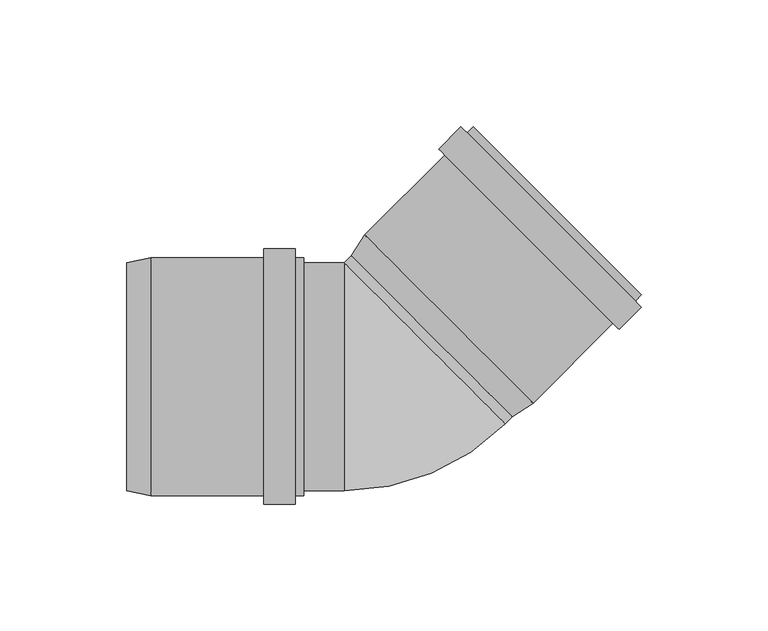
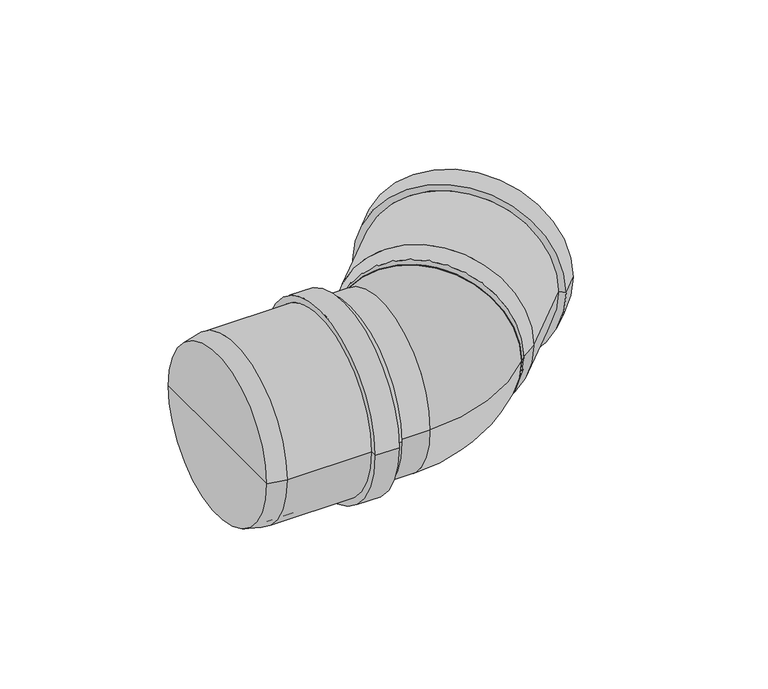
"""IFC4 building model written with IfcOpenShell, lengths in millimetres: pipe fitting geometry, pf_HTB : pf_HTB."""

from ifc_helpers import new_model, si_unit, point, frame, origin, origin_2d, place, context, project, spatial, polyline, circle_curve, ellipse_curve, trimmed, segment, composite_curve, outline, extrude, source, transform, mapped, element, save
from ifc_brep_helpers import plane_surface, cylinder_surface, revolved_surface, advanced_brep


def pipe_fitting_90b3138e(model_context):
    return source(origin(), model_context, "Body", "SolidModel", [
        advanced_brep(
        [(47.8004184, -15.8391919, 0.0), (-15.8391919, 47.8004184, 0.0), (-10.535891, 55.9321464, 0.0), (55.9321464, -10.535891, 0.0), (15.9806133, 15.9806133, 0.0), (98.7121067, 32.2440692, 0.0), (32.2440692, 98.7121067, 0.0), (33.6582828, 97.2978931, 0.0), (97.2978931, 33.6582828, 0.0), (96.3079436, 29.8399062, 0.0), (29.8399062, 96.3079436, 0.0), (98.7121067, 27.4357431, 0.0), (27.4357431, 98.7121067, 0.0), (89.8732719, 18.5969083, 0.0), (18.5969083, 89.8732719, 0.0), (87.4691088, 21.0010714, 0.0), (21.0010714, 87.4691088, 0.0), (54.5179328, -9.1216775, 0.0), (-9.1216775, 54.5179328, 0.0), (22.6981277, 22.6981277, 0.0)],
        [
            (0, 1, circle_curve(frame((15.9806133, 15.9806133, 0.0), z_axis=(0.7071067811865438, 0.7071067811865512, 0.0), x_axis=(-0.7071067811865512, 0.7071067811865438, 0.0)), 45.0)),
            (1, 2),
            (2, 3, circle_curve(frame((22.6981277, 22.6981277, 0.0), z_axis=(-0.7071067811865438, -0.7071067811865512, 0.0), x_axis=(-0.7071067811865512, 0.7071067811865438, 0.0)), 47.0)),
            (3, 0),
            (1, 0, circle_curve(frame((15.9806133, 15.9806133, 0.0), z_axis=(0.7071067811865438, 0.7071067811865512, 0.0), x_axis=(-0.7071067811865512, 0.7071067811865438, 0.0)), 45.0)),
            (3, 2, circle_curve(frame((22.6981277, 22.6981277, 0.0), z_axis=(-0.7071067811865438, -0.7071067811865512, 0.0), x_axis=(-0.7071067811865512, 0.7071067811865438, 0.0)), 47.0)),
            (4, 1),
            (0, 4),
            (5, 6, circle_curve(frame((65.4780879, 65.4780879, 0.0), z_axis=(0.7071067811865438, 0.7071067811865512, 0.0), x_axis=(-0.7071067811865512, 0.7071067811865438, 0.0)), 47.0)),
            (6, 7),
            (7, 8, circle_curve(frame((65.4780879, 65.4780879, 0.0), z_axis=(-0.7071067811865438, -0.7071067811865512, 0.0), x_axis=(-0.7071067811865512, 0.7071067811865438, 0.0)), 45.0)),
            (8, 5),
            (6, 5, circle_curve(frame((65.4780879, 65.4780879, 0.0), z_axis=(0.7071067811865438, 0.7071067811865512, 0.0), x_axis=(-0.7071067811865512, 0.7071067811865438, 0.0)), 47.0)),
            (8, 7, circle_curve(frame((65.4780879, 65.4780879, 0.0), z_axis=(-0.7071067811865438, -0.7071067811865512, 0.0), x_axis=(-0.7071067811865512, 0.7071067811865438, 0.0)), 45.0)),
            (9, 10, circle_curve(frame((63.0739249, 63.0739249, 0.0), z_axis=(0.7071067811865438, 0.7071067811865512, 0.0), x_axis=(-0.7071067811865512, 0.7071067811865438, 0.0)), 47.0)),
            (10, 6),
            (5, 9),
            (10, 9, circle_curve(frame((63.0739249, 63.0739249, 0.0), z_axis=(0.7071067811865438, 0.7071067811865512, 0.0), x_axis=(-0.7071067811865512, 0.7071067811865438, 0.0)), 47.0)),
            (11, 12, circle_curve(frame((63.0739249, 63.0739249, 0.0), z_axis=(0.7071067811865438, 0.7071067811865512, 0.0), x_axis=(-0.7071067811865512, 0.7071067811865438, 0.0)), 50.4)),
            (12, 10),
            (9, 11),
            (12, 11, circle_curve(frame((63.0739249, 63.0739249, 0.0), z_axis=(0.7071067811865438, 0.7071067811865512, 0.0), x_axis=(-0.7071067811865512, 0.7071067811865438, 0.0)), 50.4)),
            (13, 14, circle_curve(frame((54.2350901, 54.2350901, 0.0), z_axis=(0.7071067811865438, 0.7071067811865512, 0.0), x_axis=(-0.7071067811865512, 0.7071067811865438, 0.0)), 50.4)),
            (14, 12),
            (11, 13),
            (14, 13, circle_curve(frame((54.2350901, 54.2350901, 0.0), z_axis=(0.7071067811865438, 0.7071067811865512, 0.0), x_axis=(-0.7071067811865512, 0.7071067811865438, 0.0)), 50.4)),
            (15, 16, circle_curve(frame((54.2350901, 54.2350901, 0.0), z_axis=(0.7071067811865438, 0.7071067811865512, 0.0), x_axis=(-0.7071067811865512, 0.7071067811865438, 0.0)), 47.0)),
            (16, 14),
            (13, 15),
            (16, 15, circle_curve(frame((54.2350901, 54.2350901, 0.0), z_axis=(0.7071067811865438, 0.7071067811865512, 0.0), x_axis=(-0.7071067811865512, 0.7071067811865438, 0.0)), 47.0)),
            (2, 16),
            (15, 3),
            (17, 18, circle_curve(frame((22.6981277, 22.6981277, 0.0), z_axis=(0.7071067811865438, 0.7071067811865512, 0.0), x_axis=(-0.7071067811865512, 0.7071067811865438, 0.0)), 45.0)),
            (18, 19),
            (19, 17),
            (18, 17, circle_curve(frame((22.6981277, 22.6981277, 0.0), z_axis=(0.7071067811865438, 0.7071067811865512, 0.0), x_axis=(-0.7071067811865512, 0.7071067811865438, 0.0)), 45.0)),
            (7, 18),
            (17, 8),
        ],
        [
            revolved_surface(polyline([(-10.535891, 55.9321464, 0.0), (-15.8391919, 47.8004184, 0.0)]), (15.9806133, 15.9806133, 0.0), (-0.7071067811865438, -0.7071067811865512, 0.0)),
            plane_surface(frame((15.9806133, 15.9806133, 0.0), z_axis=(-0.7071067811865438, -0.7071067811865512, 0.0), x_axis=(-0.7071067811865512, 0.7071067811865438, 0.0))),
            plane_surface(frame((65.4780879, 65.4780879, 0.0), z_axis=(0.7071067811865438, 0.7071067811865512, 0.0), x_axis=(-0.7071067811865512, 0.7071067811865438, 0.0))),
            cylinder_surface(frame((15.9806133, 15.9806133, 0.0), z_axis=(-0.7071067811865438, -0.7071067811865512, 0.0), x_axis=(-0.7071067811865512, 0.7071067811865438, 0.0)), 47.0),
            plane_surface(frame((63.0739249, 63.0739249, 0.0), z_axis=(0.7071067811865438, 0.7071067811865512, 0.0), x_axis=(-0.7071067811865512, 0.7071067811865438, 0.0))),
            cylinder_surface(frame((15.9806133, 15.9806133, 0.0), z_axis=(-0.7071067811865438, -0.7071067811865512, 0.0), x_axis=(-0.7071067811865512, 0.7071067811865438, 0.0)), 50.4),
            plane_surface(frame((54.2350901, 54.2350901, 0.0), z_axis=(-0.7071067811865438, -0.7071067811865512, 0.0), x_axis=(-0.7071067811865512, 0.7071067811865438, 0.0))),
            plane_surface(frame((22.6981277, 22.6981277, 0.0), z_axis=(0.7071067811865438, 0.7071067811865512, 0.0), x_axis=(-0.7071067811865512, 0.7071067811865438, 0.0))),
            revolved_surface(polyline([(-9.121677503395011, 54.51793280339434, 0.0), (33.6582827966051, 97.2978931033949, 0.0)]), (15.9806133, 15.9806133, 0.0), (-0.7071067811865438, -0.7071067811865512, 0.0)),
        ],
        [
            (0, [[1, 2, 3, 4]]),
            (0, [[5, -4, 6, -2]]),
            (1, [[7, -1, 8]]),
            (1, [[-8, -5, -7]]),
            (2, [[9, 10, 11, 12]]),
            (2, [[13, -12, 14, -10]]),
            (3, [[15, 16, -9, 17]]),
            (3, [[18, -17, -13, -16]]),
            (4, [[19, 20, -15, 21]]),
            (4, [[22, -21, -18, -20]]),
            (5, [[23, 24, -19, 25]]),
            (5, [[26, -25, -22, -24]]),
            (6, [[27, 28, -23, 29]]),
            (6, [[30, -29, -26, -28]]),
            (3, [[-3, 31, -27, 32]]),
            (3, [[-6, -32, -30, -31]]),
            (7, [[33, 34, 35]]),
            (7, [[36, -35, -34]]),
            (8, [[-11, 37, -33, 38]]),
            (8, [[-14, -38, -36, -37]]),
        ],
    ),
        advanced_brep(
        [(-104.6, -45.0, 0.0), (-104.6, 45.0, 0.0), (-95.1, 47.0, 0.0), (-95.1, -47.0, 0.0), (-104.6, 0.0, 0.0), (-34.6, -47.0, 0.0), (-34.6, 47.0, 0.0), (-34.6, 45.0, 0.0), (-34.6, -45.0, 0.0), (-38.0, -47.0, 0.0), (-38.0, 47.0, 0.0), (-38.0, -50.4, 0.0), (-38.0, 50.4, 0.0), (-50.5, -50.4, 0.0), (-50.5, 50.4, 0.0), (-50.5, -47.0, 0.0), (-50.5, 47.0, 0.0), (-95.1, -45.0, 0.0), (-95.1, 45.0, 0.0), (-95.1, 0.0, 0.0)],
        [
            (0, 1, circle_curve(frame((-104.6, 0.0, 0.0), z_axis=(1.0, 0.0, 0.0), x_axis=(0.0, 1.0, 0.0)), 45.0)),
            (1, 2),
            (2, 3, circle_curve(frame((-95.1, 0.0, 0.0), z_axis=(-1.0, 0.0, 0.0), x_axis=(0.0, 1.0, 0.0)), 47.0)),
            (3, 0),
            (1, 0, circle_curve(frame((-104.6, 0.0, 0.0), z_axis=(1.0, 0.0, 0.0), x_axis=(0.0, 1.0, 0.0)), 45.0)),
            (3, 2, circle_curve(frame((-95.1, 0.0, 0.0), z_axis=(-1.0, 0.0, 0.0), x_axis=(0.0, 1.0, 0.0)), 47.0)),
            (4, 1),
            (0, 4),
            (5, 6, circle_curve(frame((-34.6, 0.0, 0.0), z_axis=(1.0, 0.0, 0.0), x_axis=(0.0, 1.0, 0.0)), 47.0)),
            (6, 7),
            (7, 8, circle_curve(frame((-34.6, 0.0, 0.0), z_axis=(-1.0, 0.0, 0.0), x_axis=(0.0, 1.0, 0.0)), 45.0)),
            (8, 5),
            (6, 5, circle_curve(frame((-34.6, 0.0, 0.0), z_axis=(1.0, 0.0, 0.0), x_axis=(0.0, 1.0, 0.0)), 47.0)),
            (8, 7, circle_curve(frame((-34.6, 0.0, 0.0), z_axis=(-1.0, 0.0, 0.0), x_axis=(0.0, 1.0, 0.0)), 45.0)),
            (9, 10, circle_curve(frame((-38.0, 0.0, 0.0), z_axis=(1.0, 0.0, 0.0), x_axis=(0.0, 1.0, 0.0)), 47.0)),
            (10, 6),
            (5, 9),
            (10, 9, circle_curve(frame((-38.0, 0.0, 0.0), z_axis=(1.0, 0.0, 0.0), x_axis=(0.0, 1.0, 0.0)), 47.0)),
            (11, 12, circle_curve(frame((-38.0, 0.0, 0.0), z_axis=(1.0, 0.0, 0.0), x_axis=(0.0, 1.0, 0.0)), 50.4)),
            (12, 10),
            (9, 11),
            (12, 11, circle_curve(frame((-38.0, 0.0, 0.0), z_axis=(1.0, 0.0, 0.0), x_axis=(0.0, 1.0, 0.0)), 50.4)),
            (13, 14, circle_curve(frame((-50.5, 0.0, 0.0), z_axis=(1.0, 0.0, 0.0), x_axis=(0.0, 1.0, 0.0)), 50.4)),
            (14, 12),
            (11, 13),
            (14, 13, circle_curve(frame((-50.5, 0.0, 0.0), z_axis=(1.0, 0.0, 0.0), x_axis=(0.0, 1.0, 0.0)), 50.4)),
            (15, 16, circle_curve(frame((-50.5, 0.0, 0.0), z_axis=(1.0, 0.0, 0.0), x_axis=(0.0, 1.0, 0.0)), 47.0)),
            (16, 14),
            (13, 15),
            (16, 15, circle_curve(frame((-50.5, 0.0, 0.0), z_axis=(1.0, 0.0, 0.0), x_axis=(0.0, 1.0, 0.0)), 47.0)),
            (2, 16),
            (15, 3),
            (17, 18, circle_curve(frame((-95.1, 0.0, 0.0), z_axis=(1.0, 0.0, 0.0), x_axis=(0.0, 1.0, 0.0)), 45.0)),
            (18, 19),
            (19, 17),
            (18, 17, circle_curve(frame((-95.1, 0.0, 0.0), z_axis=(1.0, 0.0, 0.0), x_axis=(0.0, 1.0, 0.0)), 45.0)),
            (7, 18),
            (17, 8),
        ],
        [
            revolved_surface(polyline([(-95.1, 47.0, 0.0), (-104.6, 45.0, 0.0)]), (-104.6, 0.0, 0.0), (-1.0, 0.0, 0.0)),
            plane_surface(frame((-104.6, 0.0, 0.0), z_axis=(-1.0, 0.0, 0.0), x_axis=(0.0, 1.0, 0.0))),
            plane_surface(frame((-34.6, 0.0, 0.0), z_axis=(1.0, 0.0, 0.0), x_axis=(0.0, 1.0, 0.0))),
            cylinder_surface(frame((-104.6, 0.0, 0.0), z_axis=(-1.0, 0.0, 0.0), x_axis=(0.0, 1.0, 0.0)), 47.0),
            plane_surface(frame((-38.0, 0.0, 0.0), z_axis=(1.0, 0.0, 0.0), x_axis=(0.0, 1.0, 0.0))),
            cylinder_surface(frame((-104.6, 0.0, 0.0), z_axis=(-1.0, 0.0, 0.0), x_axis=(0.0, 1.0, 0.0)), 50.4),
            plane_surface(frame((-50.5, 0.0, 0.0), z_axis=(-1.0, 0.0, 0.0), x_axis=(0.0, 1.0, 0.0))),
            plane_surface(frame((-95.1, 0.0, 0.0), z_axis=(1.0, 0.0, 0.0), x_axis=(0.0, 1.0, 0.0))),
            revolved_surface(polyline([(-95.1, 45.0, 0.0), (-34.599999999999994, 45.0, 0.0)]), (-104.6, 0.0, 0.0), (-1.0, 0.0, 0.0)),
        ],
        [
            (0, [[1, 2, 3, 4]]),
            (0, [[5, -4, 6, -2]]),
            (1, [[7, -1, 8]]),
            (1, [[-8, -5, -7]]),
            (2, [[9, 10, 11, 12]]),
            (2, [[13, -12, 14, -10]]),
            (3, [[15, 16, -9, 17]]),
            (3, [[18, -17, -13, -16]]),
            (4, [[19, 20, -15, 21]]),
            (4, [[22, -21, -18, -20]]),
            (5, [[23, 24, -19, 25]]),
            (5, [[26, -25, -22, -24]]),
            (6, [[27, 28, -23, 29]]),
            (6, [[30, -29, -26, -28]]),
            (3, [[-3, 31, -27, 32]]),
            (3, [[-6, -32, -30, -31]]),
            (7, [[33, 34, 35]]),
            (7, [[36, -35, -34]]),
            (8, [[-11, 37, -33, 38]]),
            (8, [[-14, -38, -36, -37]]),
        ],
    ),
        extrude(outline(composite_curve([segment(trimmed(circle_curve(origin_2d(), 45.0), [point((0.0, -45.0))], [point((0.0, 45.0))], False, "CARTESIAN"), True, "CONTINUOUS"), segment(trimmed(circle_curve(origin_2d(), 45.0), [point((0.0, 45.0))], [point((0.0, -45.0))], False, "CARTESIAN"), True, "CONTINUOUS")], self_intersect=False)), frame((13.1801948, 13.1801948, 0.0), z_axis=(0.7071067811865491, 0.707106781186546, 0.0), x_axis=(0.0, 0.0, 1.0)), (0.0, 0.0, 1.0), 13.4603897),
        extrude(outline(composite_curve([segment(trimmed(circle_curve(origin_2d(), 45.0), [point((-45.0, 0.0))], [point((45.0, 0.0))], False, "CARTESIAN"), True, "CONTINUOUS"), segment(trimmed(circle_curve(origin_2d(), 45.0), [point((45.0, 0.0))], [point((-45.0, 0.0))], False, "CARTESIAN"), True, "CONTINUOUS")], self_intersect=False)), frame((-95.1, 0.0, 0.0), z_axis=(1.0, 0.0, 0.0), x_axis=(0.0, 1.0, 0.0)), (0.0, 0.0, 1.0), 76.4603897),
        advanced_brep(
        [(-18.6396103, -45.0, 0.0), (-18.6396103, 45.0, 0.0), (45.0, -18.6396103, 0.0)],
        [
            (0, 1, circle_curve(frame((-18.6396103, 0.0, 0.0), z_axis=(-1.0, 0.0, 0.0), x_axis=(0.0, 1.0, 0.0)), 45.0)),
            (1, 0, circle_curve(frame((-18.6396103, 0.0, 0.0), z_axis=(-1.0, 0.0, 0.0), x_axis=(0.0, 1.0, 0.0)), 45.0)),
            (2, 1, circle_curve(frame((13.1801948, 13.1801948, 0.0), z_axis=(0.7071067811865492, 0.7071067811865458, 0.0), x_axis=(-0.7071067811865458, 0.7071067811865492, 0.0)), 45.0)),
            (1, 2, circle_curve(frame((13.1801948, 13.1801948, 0.0), z_axis=(0.7071067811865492, 0.7071067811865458, 0.0), x_axis=(-0.7071067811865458, 0.7071067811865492, 0.0)), 45.0)),
            (2, 0, circle_curve(frame((-18.6396103, 45.0, 0.0), z_axis=(0.0, 0.0, -1.0), x_axis=(0.0, -1.0, 0.0)), 90.0)),
        ],
        [
            plane_surface(frame((-18.6396103, 45.0, -14.8), z_axis=(-1.0, 0.0, 0.0), x_axis=(0.0, -1.0, 0.0))),
            plane_surface(frame((-18.6396103, 45.0, -14.8), z_axis=(0.7071067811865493, 0.7071067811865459, 0.0), x_axis=(0.7071067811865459, -0.7071067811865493, 0.0))),
            revolved_surface(trimmed(ellipse_curve(frame((-18.6396103, 0.0, 0.0), z_axis=(1.0, 0.0, 0.0), x_axis=(0.0, 1.0, 0.0)), 45.0, 45.0), [point((-18.6396103, -45.0, 0.0))], [point((-18.6396103, 45.0, 0.0))], True, "CARTESIAN"), (-18.6396103, 45.0, -14.8), (0.0, 0.0, -1.0)),
            revolved_surface(trimmed(ellipse_curve(frame((-18.6396103, 0.0, 0.0), z_axis=(1.0, 0.0, 0.0), x_axis=(0.0, 1.0, 0.0)), 45.0, 45.0), [point((-18.6396103, 45.0, 0.0))], [point((-18.6396103, -45.0, 0.0))], True, "CARTESIAN"), (-18.6396103, 45.0, -14.8), (0.0, 0.0, -1.0)),
        ],
        [
            (0, [[1, 2]]),
            (1, [[3, 4]]),
            (2, [[5, -2, -3]]),
            (3, [[-1, -5, -4]]),
        ],
    ),
    ])


if __name__ == "__main__":
    model = new_model("IFC4")
    model_context = context("Model", 3, world=origin())
    ifc_project = project(units=[si_unit("LENGTHUNIT", "METRE", prefix="MILLI")], contexts=[model_context])
    site = spatial("IfcSite", under=ifc_project)
    building = spatial("IfcBuilding", under=site)
    placement = place(None, origin())
    pipe_fitting_shape = pipe_fitting_90b3138e(model_context)
    element("IfcPipeFitting", 1, ObjectType="pf_HTB : pf_HTB", at=placement, inside=building, context=model_context, shape_type="MappedRepresentation", body=[
        mapped(pipe_fitting_shape, transform((0.0, 0.0, 0.0), x_axis=(1.0, 0.0, 0.0), y_axis=(0.0, 1.0, 0.0), z_axis=(0.0, 0.0, 1.0))),
    ])
    save(model, "model.ifc")
